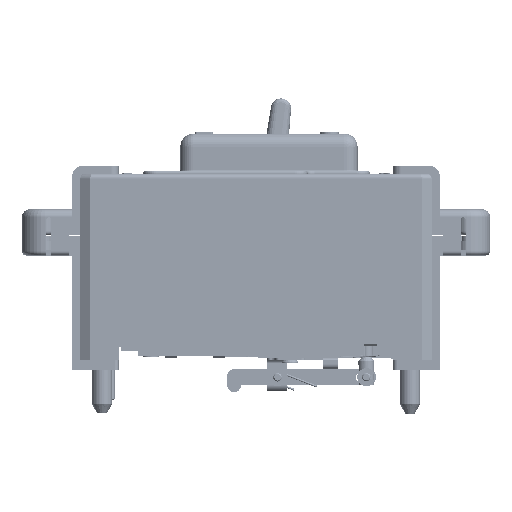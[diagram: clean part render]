
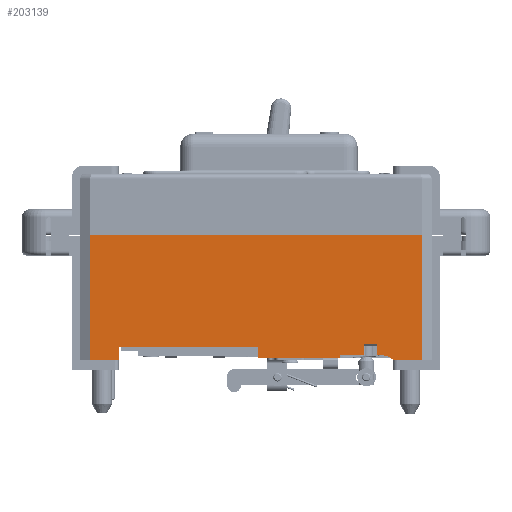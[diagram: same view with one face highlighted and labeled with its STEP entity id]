
A CAD part, left-side view. The second image highlights one B-rep face of the part: STEP entity #203139.
In plain terms, the highlighted planar face has unit normal (-1, 0, 0).
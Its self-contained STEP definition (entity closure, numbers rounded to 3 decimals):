
#1063 = ORIENTED_EDGE ( 'NONE', *, *, #111776, .T. ) ;
#1380 = DIRECTION ( 'NONE',  ( 0., 0., -1. ) ) ;
#3406 = CARTESIAN_POINT ( 'NONE',  ( -56.146, -41.892, 7.84 ) ) ;
#5567 = FACE_OUTER_BOUND ( 'NONE', #196784, .T. ) ;
#11860 = VECTOR ( 'NONE', #154705, 1000. ) ;
#12118 = VECTOR ( 'NONE', #19452, 1000. ) ;
#13166 = CARTESIAN_POINT ( 'NONE',  ( -56.146, -60.212, 13.16 ) ) ;
#16713 = CARTESIAN_POINT ( 'NONE',  ( -56.146, 87.26, 7.07 ) ) ;
#18568 = DIRECTION ( 'NONE',  ( 0., 1., 0. ) ) ;
#19452 = DIRECTION ( 'NONE',  ( 0., 0., -1. ) ) ;
#24236 = CARTESIAN_POINT ( 'NONE',  ( -56.146, 68.048, 11.51 ) ) ;
#33007 = CARTESIAN_POINT ( 'NONE',  ( -56.146, -41.892, 6.14 ) ) ;
#35645 = CARTESIAN_POINT ( 'NONE',  ( -56.146, -60.212, 13.16 ) ) ;
#37957 = ORIENTED_EDGE ( 'NONE', *, *, #115200, .T. ) ;
#38954 = VERTEX_POINT ( 'NONE', #59956 ) ;
#39873 = ORIENTED_EDGE ( 'NONE', *, *, #131931, .T. ) ;
#43639 = VERTEX_POINT ( 'NONE', #138937 ) ;
#44510 = VECTOR ( 'NONE', #242271, 1000. ) ;
#44527 = LINE ( 'NONE', #215780, #98254 ) ;
#51134 = EDGE_CURVE ( 'NONE', #234155, #134071, #227461, .T. ) ;
#51365 = CARTESIAN_POINT ( 'NONE',  ( -56.146, -53.702, 13.16 ) ) ;
#51484 = EDGE_CURVE ( 'NONE', #38954, #151132, #252296, .T. ) ;
#53229 = LINE ( 'NONE', #130154, #145353 ) ;
#55170 = EDGE_CURVE ( 'NONE', #121109, #131405, #122300, .T. ) ;
#59956 = CARTESIAN_POINT ( 'NONE',  ( -56.146, -0.982, 6.14 ) ) ;
#60015 = VECTOR ( 'NONE', #85045, 1000. ) ;
#60073 = CARTESIAN_POINT ( 'NONE',  ( -56.146, 48.247, 72.573 ) ) ;
#64273 = LINE ( 'NONE', #192032, #117979 ) ;
#67850 = ORIENTED_EDGE ( 'NONE', *, *, #242615, .T. ) ;
#68508 = AXIS2_PLACEMENT_3D ( 'NONE', #77174, #218797, #97411 ) ;
#74192 = DIRECTION ( 'NONE',  ( 0., -1., 0. ) ) ;
#75403 = CARTESIAN_POINT ( 'NONE',  ( -56.146, 68.048, 5. ) ) ;
#76240 = DIRECTION ( 'NONE',  ( 0., 1., 0. ) ) ;
#77174 = CARTESIAN_POINT ( 'NONE',  ( -56.146, 87.26, 5. ) ) ;
#77488 = CARTESIAN_POINT ( 'NONE',  ( -56.146, 82.26, 5. ) ) ;
#77714 = DIRECTION ( 'NONE',  ( 0., 1., 0. ) ) ;
#79402 = LINE ( 'NONE', #217854, #180703 ) ;
#80594 = VECTOR ( 'NONE', #222982, 1000. ) ;
#81374 = CARTESIAN_POINT ( 'NONE',  ( -56.146, -0.982, 11.51 ) ) ;
#84830 = DIRECTION ( 'NONE',  ( 0., 0., -1. ) ) ;
#85045 = DIRECTION ( 'NONE',  ( 0., -1., 0. ) ) ;
#88410 = DIRECTION ( 'NONE',  ( 0., 0., -1. ) ) ;
#90634 = EDGE_CURVE ( 'NONE', #253027, #187967, #215184, .T. ) ;
#91132 = DIRECTION ( 'NONE',  ( 0., -1., 0. ) ) ;
#91261 = VECTOR ( 'NONE', #88410, 1000. ) ;
#97055 = ORIENTED_EDGE ( 'NONE', *, *, #51134, .F. ) ;
#97411 = DIRECTION ( 'NONE',  ( 0., -1., 0. ) ) ;
#97942 = VERTEX_POINT ( 'NONE', #116118 ) ;
#98056 = CARTESIAN_POINT ( 'NONE',  ( -56.146, -53.702, 7.84 ) ) ;
#98242 = LINE ( 'NONE', #60073, #44510 ) ;
#98254 = VECTOR ( 'NONE', #74192, 1000. ) ;
#101421 = VECTOR ( 'NONE', #1380, 1000. ) ;
#109205 = CARTESIAN_POINT ( 'NONE',  ( -56.146, -41.892, 7.84 ) ) ;
#111776 = EDGE_CURVE ( 'NONE', #139255, #97942, #155345, .T. ) ;
#113147 = LINE ( 'NONE', #35645, #167078 ) ;
#113991 = CARTESIAN_POINT ( 'NONE',  ( -56.146, -53.702, 13.16 ) ) ;
#115200 = EDGE_CURVE ( 'NONE', #97942, #134071, #64273, .T. ) ;
#115369 = ORIENTED_EDGE ( 'NONE', *, *, #166262, .F. ) ;
#116118 = CARTESIAN_POINT ( 'NONE',  ( -56.146, 82.26, 5. ) ) ;
#117979 = VECTOR ( 'NONE', #91132, 1000. ) ;
#120131 = CARTESIAN_POINT ( 'NONE',  ( -56.146, 68.048, 5. ) ) ;
#121109 = VERTEX_POINT ( 'NONE', #222256 ) ;
#122300 = LINE ( 'NONE', #16713, #211095 ) ;
#126878 = VERTEX_POINT ( 'NONE', #137241 ) ;
#128509 = ORIENTED_EDGE ( 'NONE', *, *, #90634, .T. ) ;
#130154 = CARTESIAN_POINT ( 'NONE',  ( -56.146, -82.225, 5. ) ) ;
#130757 = VECTOR ( 'NONE', #84830, 1000. ) ;
#131405 = VERTEX_POINT ( 'NONE', #173048 ) ;
#131931 = EDGE_CURVE ( 'NONE', #187967, #238975, #53229, .T. ) ;
#134071 = VERTEX_POINT ( 'NONE', #75403 ) ;
#136700 = ORIENTED_EDGE ( 'NONE', *, *, #257765, .F. ) ;
#137241 = CARTESIAN_POINT ( 'NONE',  ( -56.146, -60.212, 13.16 ) ) ;
#137305 = LINE ( 'NONE', #113991, #191218 ) ;
#138252 = VECTOR ( 'NONE', #233370, 1000. ) ;
#138551 = ORIENTED_EDGE ( 'NONE', *, *, #195984, .F. ) ;
#138780 = DIRECTION ( 'NONE',  ( 0., 1., 0. ) ) ;
#138872 = VECTOR ( 'NONE', #18568, 1000. ) ;
#138937 = CARTESIAN_POINT ( 'NONE',  ( -56.146, -63.802, 7.84 ) ) ;
#139255 = VERTEX_POINT ( 'NONE', #222143 ) ;
#140156 = ORIENTED_EDGE ( 'NONE', *, *, #55170, .F. ) ;
#140573 = ORIENTED_EDGE ( 'NONE', *, *, #203119, .F. ) ;
#143681 = ORIENTED_EDGE ( 'NONE', *, *, #173291, .F. ) ;
#144522 = ORIENTED_EDGE ( 'NONE', *, *, #51484, .F. ) ;
#145353 = VECTOR ( 'NONE', #251459, 1000. ) ;
#150364 = ORIENTED_EDGE ( 'NONE', *, *, #259695, .F. ) ;
#151132 = VERTEX_POINT ( 'NONE', #179636 ) ;
#152034 = VERTEX_POINT ( 'NONE', #208380 ) ;
#154705 = DIRECTION ( 'NONE',  ( 0., 0., -1. ) ) ;
#155345 = LINE ( 'NONE', #77488, #101421 ) ;
#156811 = DIRECTION ( 'NONE',  ( 0., 1., 0. ) ) ;
#159626 = CARTESIAN_POINT ( 'NONE',  ( -56.146, -53.702, 7.84 ) ) ;
#166262 = EDGE_CURVE ( 'NONE', #243327, #217583, #178970, .T. ) ;
#166369 = ORIENTED_EDGE ( 'NONE', *, *, #189437, .F. ) ;
#167078 = VECTOR ( 'NONE', #156811, 1000. ) ;
#172682 = VECTOR ( 'NONE', #138780, 1000. ) ;
#173048 = CARTESIAN_POINT ( 'NONE',  ( -56.146, -63.802, 7.07 ) ) ;
#173291 = EDGE_CURVE ( 'NONE', #43639, #152034, #79402, .T. ) ;
#173372 = LINE ( 'NONE', #13166, #11860 ) ;
#175853 = CARTESIAN_POINT ( 'NONE',  ( -56.146, -82.225, 67.07 ) ) ;
#178970 = LINE ( 'NONE', #98056, #172682 ) ;
#179636 = CARTESIAN_POINT ( 'NONE',  ( -56.146, -0.982, 11.51 ) ) ;
#180703 = VECTOR ( 'NONE', #76240, 1000. ) ;
#187967 = VERTEX_POINT ( 'NONE', #219722 ) ;
#188737 = CARTESIAN_POINT ( 'NONE',  ( -56.146, -68.792, 5. ) ) ;
#189437 = EDGE_CURVE ( 'NONE', #225603, #38954, #192756, .T. ) ;
#191218 = VECTOR ( 'NONE', #235327, 1000. ) ;
#192032 = CARTESIAN_POINT ( 'NONE',  ( -56.146, 87.26, 5. ) ) ;
#192756 = LINE ( 'NONE', #199050, #138872 ) ;
#195984 = EDGE_CURVE ( 'NONE', #151132, #234155, #235761, .T. ) ;
#196784 = EDGE_LOOP ( 'NONE', ( #97055, #138551, #144522, #166369, #136700, #115369, #242027, #140573, #67850, #143681, #229856, #140156, #197304, #128509, #39873, #150364, #1063, #37957 ) ) ;
#197304 = ORIENTED_EDGE ( 'NONE', *, *, #214455, .F. ) ;
#198927 = LINE ( 'NONE', #209750, #91261 ) ;
#199050 = CARTESIAN_POINT ( 'NONE',  ( -56.146, -41.892, 6.14 ) ) ;
#203119 = EDGE_CURVE ( 'NONE', #126878, #221360, #113147, .T. ) ;
#203139 = ADVANCED_FACE ( 'NONE', ( #5567 ), #233906, .T. ) ;
#206325 = CARTESIAN_POINT ( 'NONE',  ( -56.146, 87.26, 5. ) ) ;
#208380 = CARTESIAN_POINT ( 'NONE',  ( -56.146, -60.212, 7.84 ) ) ;
#209750 = CARTESIAN_POINT ( 'NONE',  ( -56.146, -63.802, 7.84 ) ) ;
#211058 = EDGE_CURVE ( 'NONE', #43639, #131405, #198927, .T. ) ;
#211095 = VECTOR ( 'NONE', #77714, 1000. ) ;
#213036 = CARTESIAN_POINT ( 'NONE',  ( -56.146, -0.982, 5. ) ) ;
#214455 = EDGE_CURVE ( 'NONE', #253027, #121109, #98242, .T. ) ;
#215184 = LINE ( 'NONE', #206325, #60015 ) ;
#215780 = CARTESIAN_POINT ( 'NONE',  ( -56.146, 87.26, 67.07 ) ) ;
#217583 = VERTEX_POINT ( 'NONE', #109205 ) ;
#217854 = CARTESIAN_POINT ( 'NONE',  ( -56.146, -63.802, 7.84 ) ) ;
#218797 = DIRECTION ( 'NONE',  ( -1., 0., 0. ) ) ;
#219722 = CARTESIAN_POINT ( 'NONE',  ( -56.146, -82.225, 5. ) ) ;
#221360 = VERTEX_POINT ( 'NONE', #51365 ) ;
#222143 = CARTESIAN_POINT ( 'NONE',  ( -56.146, 82.26, 67.07 ) ) ;
#222256 = CARTESIAN_POINT ( 'NONE',  ( -56.146, -65.207, 7.07 ) ) ;
#222982 = DIRECTION ( 'NONE',  ( 0., 1., 0. ) ) ;
#225603 = VERTEX_POINT ( 'NONE', #33007 ) ;
#225873 = LINE ( 'NONE', #3406, #130757 ) ;
#227461 = LINE ( 'NONE', #120131, #12118 ) ;
#229856 = ORIENTED_EDGE ( 'NONE', *, *, #211058, .T. ) ;
#233370 = DIRECTION ( 'NONE',  ( 0., 0., 1. ) ) ;
#233906 = PLANE ( 'NONE',  #68508 ) ;
#234155 = VERTEX_POINT ( 'NONE', #24236 ) ;
#235327 = DIRECTION ( 'NONE',  ( 0., 0., -1. ) ) ;
#235761 = LINE ( 'NONE', #81374, #80594 ) ;
#238975 = VERTEX_POINT ( 'NONE', #175853 ) ;
#242027 = ORIENTED_EDGE ( 'NONE', *, *, #246483, .F. ) ;
#242271 = DIRECTION ( 'NONE',  ( 0., 0.866, 0.5 ) ) ;
#242615 = EDGE_CURVE ( 'NONE', #126878, #152034, #173372, .T. ) ;
#243327 = VERTEX_POINT ( 'NONE', #159626 ) ;
#246483 = EDGE_CURVE ( 'NONE', #221360, #243327, #137305, .T. ) ;
#251459 = DIRECTION ( 'NONE',  ( 0., 0., 1. ) ) ;
#252296 = LINE ( 'NONE', #213036, #138252 ) ;
#253027 = VERTEX_POINT ( 'NONE', #188737 ) ;
#257765 = EDGE_CURVE ( 'NONE', #217583, #225603, #225873, .T. ) ;
#259695 = EDGE_CURVE ( 'NONE', #139255, #238975, #44527, .T. ) ;
